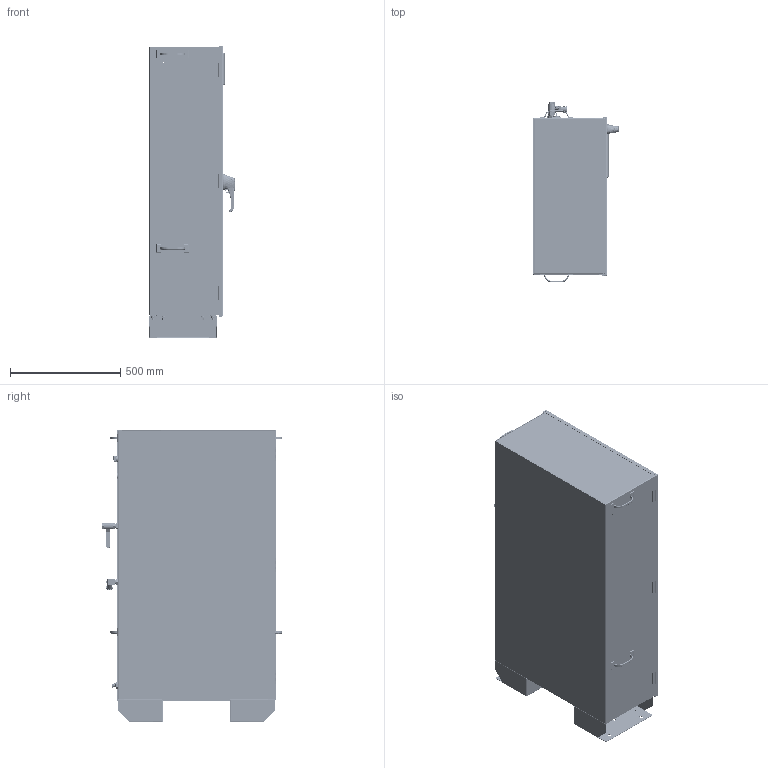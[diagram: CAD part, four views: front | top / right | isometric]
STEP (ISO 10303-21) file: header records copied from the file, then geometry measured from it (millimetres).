
FILE_DESCRIPTION(/* description */ (''),/* implementation_level */ '2;1');
FILE_NAME(/* name */ 'AG-25000_Simplified.stp',/* time_stamp */ '2023-08-14T15:29:35-05:00',/* author */ ('atroll'),/* organization */ (''),/* preprocessor_version */ 'ST-DEVELOPER v19.2',/* originating_system */ 'Autodesk Inventor 2023',/* authorisation */ '');
FILE_SCHEMA (('AUTOMOTIVE_DESIGN { 1 0 10303 214 3 1 1 }'));
Products named in the file (1): AG-25000_Simplified
Bounding box: 386.66 x 820.61 x 1327.43 mm (x, y, z)
Volume: 9480061.1 mm3; surface area: 8947667.8 mm2
Topology: 5 solids, 84 shells, 8344 faces, 24517 edges, 16258 vertices
Faces by surface type: plane 4494, cylinder 1622, bspline 1278, cone 626, torus 223, sphere 101
Full cylindrical faces by diameter (mm): 0.5 x8, 0.762 x8, 1 x20, 2 x2, 2.54 x4, 2.8 x4, 3 x3, 3.175 x3, 3.3 x1, 3.302 x4, 3.5 x7, 3.68 x1, 3.7 x1, 3.8 x2, 4.1 x3, 4.318 x2, 4.826 x4, 5 x3, 5.156 x4, 5.207 x2, 6 x4, 6.096 x2, 6.35 x15, 6.6 x2, 7 x1, 7.057 x11, 7.137 x4, 7.2 x2, 7.785 x10, 7.836 x2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
Entity records: 380436 total; most frequent: CARTESIAN_POINT 160092, ORIENTED_EDGE 46201, DIRECTION 39643, EDGE_CURVE 24481, VERTEX_POINT 16258, LINE 15033, VECTOR 15033, AXIS2_PLACEMENT_3D 12305
